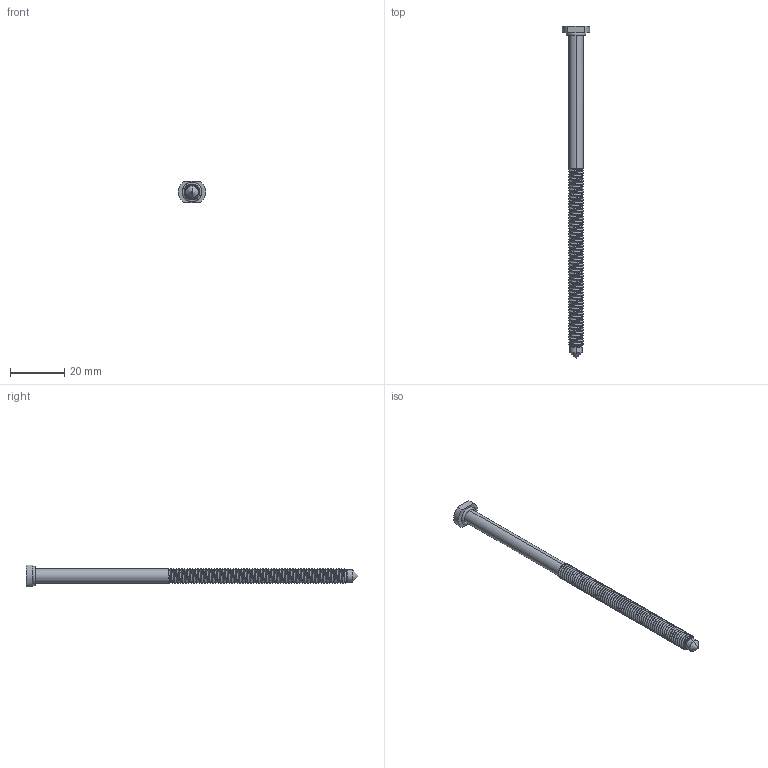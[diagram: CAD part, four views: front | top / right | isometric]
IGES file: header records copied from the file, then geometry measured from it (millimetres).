
Start section: 3D InterOp IGES (v. 2022 1.0.1), Spatial Corp. Copyright (c) 1999-2020.
Global section: file name: E557-SCREW_11.04.466-0 Worktop Connector Fix-More Steel Screw M6x120mm BZP.igs; native system: Spatial Corp.; preprocessor: 3D InterOp GENERIC/IGES 3.0; author: Noname; organization: Noname; date: 20251208.172021; units: millimetre
Bounding box: 9.96 x 122.5 x 8 mm (x, y, z)
Volume: 2644 mm3; surface area: 3127.3 mm2
Topology: 1 solids, 1 shells, 165 faces, 477 edges, 314 vertices
Faces by surface type: cylinder 137, extrusion 16, cone 6, bspline 4, revolution 2
